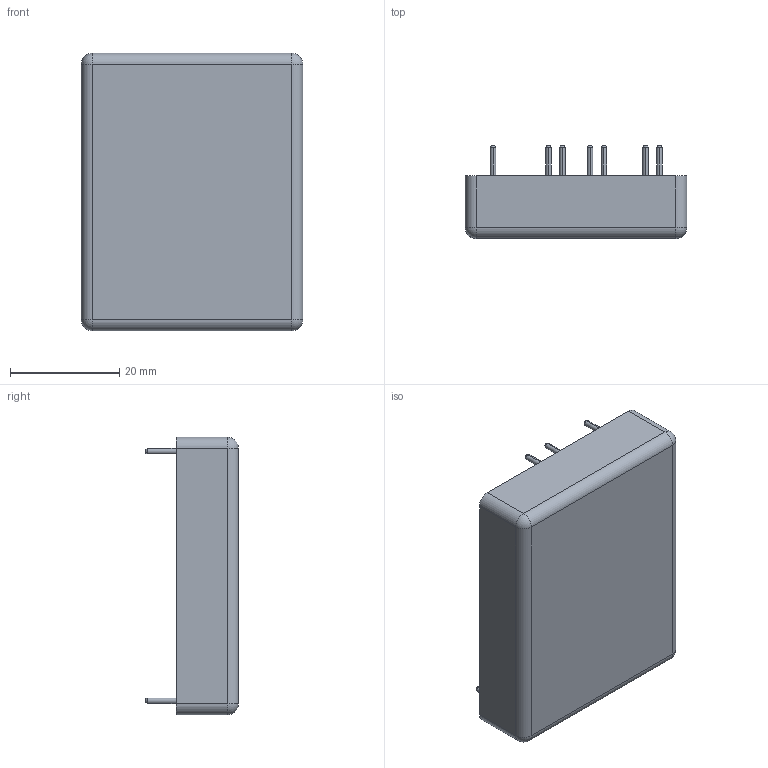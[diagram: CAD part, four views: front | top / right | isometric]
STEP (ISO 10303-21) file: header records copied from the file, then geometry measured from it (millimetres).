
FILE_DESCRIPTION (( 'STEP AP214' ), '1' );
FILE_NAME ('EC3SCW示意圖.STEP', '2018-01-09T06:17:07', ( 'cincon' ), ( '' ), 'SwSTEP 2.0', 'SolidWorks 2008', '' );
FILE_SCHEMA (( 'AUTOMOTIVE_DESIGN' ));
Length unit declared in the file: millimetre
Products named in the file (1): EC3SCW示意圖
Bounding box: 40.6 x 17 x 50.8 mm (x, y, z)
Volume: 23353.1 mm3; surface area: 6129.2 mm2
Topology: 1 solids, 1 shells, 53 faces, 110 edges, 62 vertices
Faces by surface type: cylinder 22, cone 14, plane 13, sphere 4
Entity records: 1393 total; most frequent: DIRECTION 272, CARTESIAN_POINT 222, ORIENTED_EDGE 212, AXIS2_PLACEMENT_3D 112, EDGE_CURVE 106, VERTEX_POINT 62, EDGE_LOOP 60, CIRCLE 58
